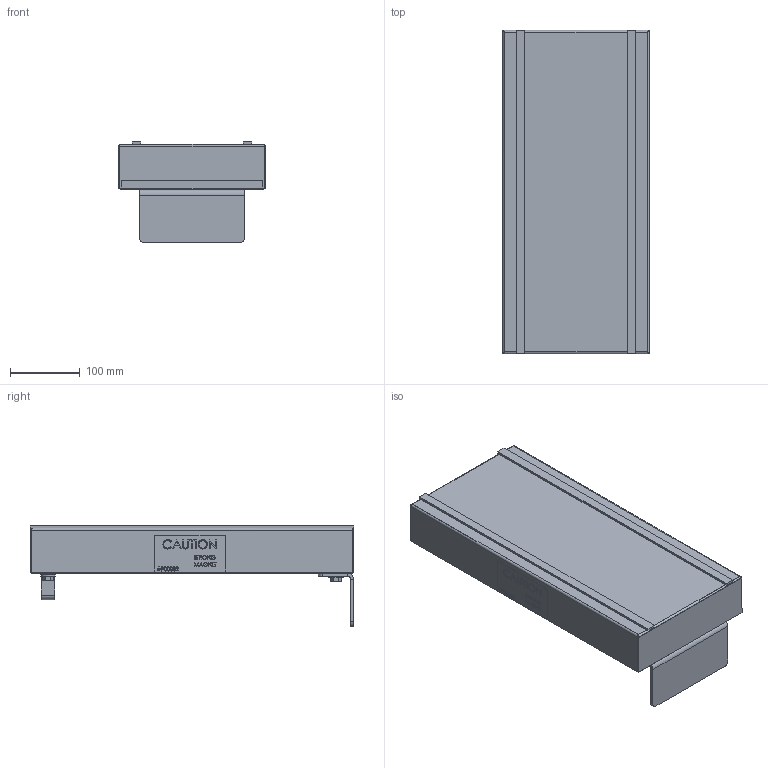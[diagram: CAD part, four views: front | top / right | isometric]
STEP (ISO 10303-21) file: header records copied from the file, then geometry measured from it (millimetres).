
FILE_DESCRIPTION (( 'STEP AP203' ), '1' );
FILE_NAME ('TKF18.STEP', '2017-09-15T17:09:34', ( 'admin' ), ( '' ), 'SwSTEP 2.0', 'SolidWorks 2015', '' );
FILE_SCHEMA (( 'CONFIG_CONTROL_DESIGN' ));
Length unit declared in the file: inch
Products named in the file (1): TKF18
Bounding box: 210.82 x 465.39 x 144.15 mm (x, y, z)
Volume: 2369919.3 mm3; surface area: 779144.6 mm2
Topology: 19 solids, 19 shells, 2342 faces, 5930 edges, 3844 vertices
Faces by surface type: plane 1307, bspline 675, cylinder 176, cone 176, torus 8
Entity records: 110969 total; most frequent: CARTESIAN_POINT 59014, ORIENTED_EDGE 11860, DIRECTION 8264, EDGE_CURVE 5930, LINE 4016, VECTOR 4016, VERTEX_POINT 3844, EDGE_LOOP 2592
